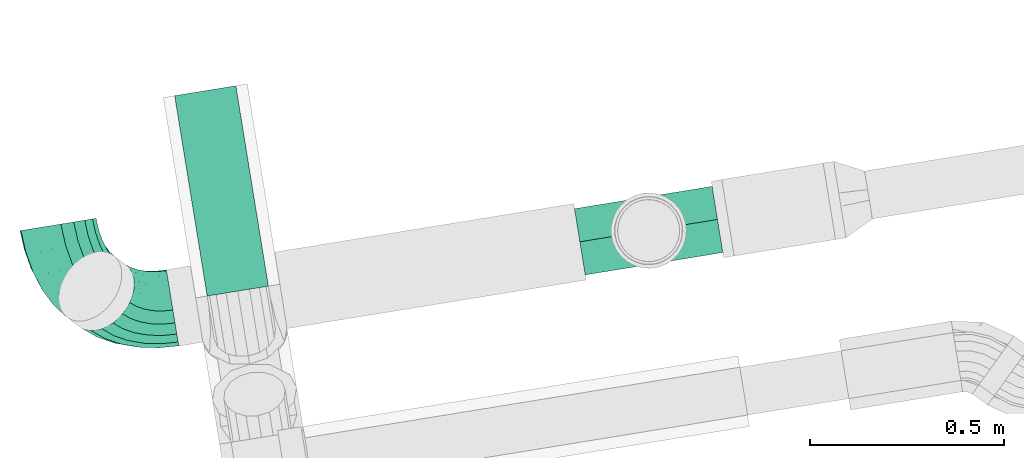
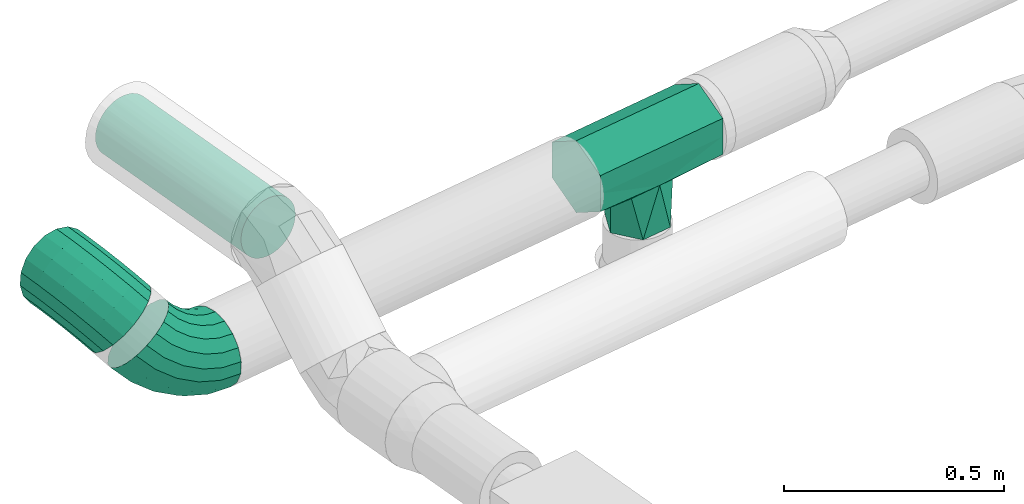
# One storey, part 36 of 39: 3 flow fittings, 1 flow segment.
"""IFC2X3 building model written with IfcOpenShell, lengths in millimetres."""

import ifcopenshell
import ifcopenshell.guid

model = None  # the IFC model being written
_history = None  # IfcOwnerHistory: only IFC2X3 demands one
_inside = {}  # id of a spatial element -> (the spatial element, [elements in it])
_under = {}  # id of a project, library or spatial element -> (it, [spatial elements below it])
_declared = {}  # id of a project -> (the project, [libraries it declares])
_typed = {}  # id of a type object -> (the type object, [elements of that type])
_made_of = {}  # id of a material, layer set ... -> (it, [elements and type objects made of it])


def new_model(schema):
    """Start an empty IFC model of exactly this schema.

    Asked for "IFC4X3", IfcOpenShell would pick the latest addendum, in which some entities
    have other attributes; the version numbers below select the first issue.
    IFC2X3 requires an IfcOwnerHistory on every rooted entity: one is made here for all.
    """
    global model, _history
    if schema == "IFC4X3":
        model = ifcopenshell.file(schema_version=(4, 3, 0, 0))
    else:
        model = ifcopenshell.file(schema=schema)
    _inside.clear()
    _under.clear()
    _declared.clear()
    _typed.clear()
    _made_of.clear()
    _history = None
    if model.schema == "IFC2X3":
        org = make("IfcOrganization", Name="unknown")
        user = make(
            "IfcPersonAndOrganization",
            ThePerson=make("IfcPerson", FamilyName="unknown"),
            TheOrganization=org,
        )
        app = make(
            "IfcApplication",
            ApplicationDeveloper=org,
            Version="unknown",
            ApplicationFullName="unknown",
            ApplicationIdentifier="unknown",
        )
        _history = make(
            "IfcOwnerHistory",
            OwningUser=user,
            OwningApplication=app,
            ChangeAction="ADDED",
            CreationDate=0,
        )
    return model


def make(cls, **values):
    """One entity of the class cls with the attributes given. An attribute that is None is left unset."""
    return model.create_entity(
        cls, **{name: value for name, value in values.items() if value is not None}
    )


def entity(cls, *values):
    """Any entity or typed value of the class cls, its attributes in the order of the schema. None: left unset."""
    e = model.create_entity(cls)
    for i, value in enumerate(values):
        if value is not None:
            e[i] = value
    return e


def rooted(cls, **values):
    """An entity with a GlobalId (a new one), such as an element, a storey or a relation."""
    return make(cls, GlobalId=ifcopenshell.guid.new(), OwnerHistory=_history, **values)


def si_unit(unit_type, name, prefix=None):
    """IfcSIUnit, for example si_unit("LENGTHUNIT", "METRE", prefix="MILLI")."""
    return make("IfcSIUnit", UnitType=unit_type, Prefix=prefix, Name=name)


def converted_unit(unit_type, name, factor, base, dimensions=None, offset=None):
    """IfcConversionBasedUnit, such as the inch: factor (a typed value) times the base unit."""
    return make(
        "IfcConversionBasedUnit"
        if offset is None
        else "IfcConversionBasedUnitWithOffset",
        ConversionOffset=offset,
        Dimensions=None
        if dimensions is None
        else entity("IfcDimensionalExponents", *dimensions),
        UnitType=unit_type,
        Name=name,
        ConversionFactor=make(
            "IfcMeasureWithUnit", ValueComponent=factor, UnitComponent=base
        ),
    )


def derived_unit(unit_type, elements):
    """IfcDerivedUnit: a product of units, each with its exponent."""
    return make(
        "IfcDerivedUnit",
        Elements=[
            make("IfcDerivedUnitElement", Unit=unit, Exponent=power)
            for unit, power in elements
        ],
        UnitType=unit_type,
    )


def assignment(units):
    """IfcUnitAssignment: the units of a project."""
    return None if units is None else make("IfcUnitAssignment", Units=units)


def point(xyz):
    """IfcCartesianPoint."""
    return None if xyz is None else make("IfcCartesianPoint", Coordinates=xyz)


def direction(xyz):
    """IfcDirection."""
    return None if xyz is None else make("IfcDirection", DirectionRatios=xyz)


def frame(location, z_axis=None, x_axis=None):
    """IfcAxis2Placement3D, a coordinate frame: its origin and axes. An axis left out is left unset."""
    return make(
        "IfcAxis2Placement3D",
        Location=point(location),
        Axis=direction(z_axis),
        RefDirection=direction(x_axis),
    )


def origin():
    """The frame at (0, 0, 0) with its axes left unset."""
    return frame((0.0, 0.0, 0.0))


def origin_with_axes():
    """The frame at (0, 0, 0) with the z axis (0, 0, 1) and the x axis (1, 0, 0) written out."""
    return frame((0.0, 0.0, 0.0), z_axis=(0.0, 0.0, 1.0), x_axis=(1.0, 0.0, 0.0))


def place(relative_to, where):
    """IfcLocalPlacement: puts the frame where relative to a parent placement (None: the world)."""
    return make(
        "IfcLocalPlacement", PlacementRelTo=relative_to, RelativePlacement=where
    )


def context(
    kind, dimensions, precision=None, world=None, true_north=None, identifier=None
):
    """IfcGeometricRepresentationContext, for example the 3D "Model" context."""
    return make(
        "IfcGeometricRepresentationContext",
        ContextIdentifier=identifier,
        ContextType=kind,
        CoordinateSpaceDimension=dimensions,
        Precision=precision,
        WorldCoordinateSystem=world,
        TrueNorth=true_north,
    )


def subcontext(parent, identifier, kind, view, scale=None):
    """IfcGeometricRepresentationSubContext, for example "Body" below "Model"."""
    return make(
        "IfcGeometricRepresentationSubContext",
        ContextIdentifier=identifier,
        ContextType=kind,
        ParentContext=parent,
        TargetScale=scale,
        TargetView=view,
    )


def project(units=None, contexts=None):
    """IfcProject with its units and contexts."""
    return rooted(
        "IfcProject",
        Name="project",
        RepresentationContexts=contexts,
        UnitsInContext=assignment(units),
    )


def spatial(cls, under=None, at=None, **own):
    """A site, building, storey or space (cls), placed at a placement, below another one or the project."""
    s = rooted(cls, ObjectPlacement=at, **own)
    if under is not None:
        _under.setdefault(under.id(), (under, []))[1].append(s)
    return s


def faces_of(points, faces, orient=None, outer=None):
    """IfcFace entities. A face is a list of loops; a loop is a list of indices into points, from 0.

    orient and outer hold one flag for each loop. By default every Orientation is true, the
    first loop of a face is its IfcFaceOuterBound and the others are IfcFaceBound.
    """
    made = []
    for i, loops in enumerate(faces):
        bounds = []
        for j, loop in enumerate(loops):
            is_outer = j == 0 if outer is None else outer[i][j]
            bounds.append(
                make(
                    "IfcFaceOuterBound" if is_outer else "IfcFaceBound",
                    Bound=make("IfcPolyLoop", Polygon=[points[k] for k in loop]),
                    Orientation=True if orient is None else orient[i][j],
                )
            )
        made.append(make("IfcFace", Bounds=bounds))
    return made


def faceted_brep(points, faces, orient=None, outer=None, voids=None):
    """IfcFacetedBrep: a solid bounded by flat faces; with voids (closed shells), ...WithVoids."""
    shared = [point(p) for p in points]
    hull = make("IfcClosedShell", CfsFaces=faces_of(shared, faces, orient, outer))
    if voids is None:
        return make("IfcFacetedBrep", Outer=hull)
    return make(
        "IfcFacetedBrepWithVoids",
        Outer=hull,
        Voids=[
            make(cls, CfsFaces=faces_of(shared, fs, o, b)) for cls, fs, o, b in voids
        ],
    )


def shape(context_of_items, identifier, shape_type, items):
    """IfcShapeRepresentation: the items that make up one representation, for example the "Body"."""
    return make(
        "IfcShapeRepresentation",
        ContextOfItems=context_of_items,
        RepresentationIdentifier=identifier,
        RepresentationType=shape_type,
        Items=items,
    )


def source(mapping_origin, context_of_items, identifier, shape_type, items):
    """IfcRepresentationMap: a shape defined once, which mapped items show again and again."""
    return make(
        "IfcRepresentationMap",
        MappingOrigin=mapping_origin,
        MappedRepresentation=shape(context_of_items, identifier, shape_type, items),
    )


def transform(
    local_origin,
    x_axis=None,
    y_axis=None,
    z_axis=None,
    scale=None,
    scale2=None,
    scale3=None,
    uniform=True,
):
    """IfcCartesianTransformationOperator3D, or its non-uniform kind. x_axis, y_axis, z_axis: its Axis1, 2, 3."""
    if uniform:
        return make(
            "IfcCartesianTransformationOperator3D",
            Axis1=direction(x_axis),
            Axis2=direction(y_axis),
            LocalOrigin=point(local_origin),
            Scale=scale,
            Axis3=direction(z_axis),
        )
    return make(
        "IfcCartesianTransformationOperator3DnonUniform",
        Axis1=direction(x_axis),
        Axis2=direction(y_axis),
        LocalOrigin=point(local_origin),
        Scale=scale,
        Axis3=direction(z_axis),
        Scale2=scale2,
        Scale3=scale3,
    )


def mapped(mapping_source, mapping_target):
    """IfcMappedItem: shows the shape of a source again, moved by a transform."""
    return make(
        "IfcMappedItem", MappingSource=mapping_source, MappingTarget=mapping_target
    )


def material(Name=None, Category=None):
    """IfcMaterial."""
    return make("IfcMaterial", Name=Name, Category=Category)


def made_of(thing, what):
    """Note that an element or type object is made of a material, layer set ...; save() writes the relation."""
    if what is not None:
        _made_of.setdefault(what.id(), (what, []))[1].append(thing)
    return thing


def type_object(cls, material=None, **own):
    """A type object (cls), such as IfcWallType, which elements share."""
    return made_of(rooted(cls, **own), material)


def element(
    cls,
    number,
    at=None,
    inside=None,
    cuts=None,
    type_object=None,
    material=None,
    context=None,
    identifier="Body",
    shape_type=None,
    held_by="IfcProductDefinitionShape",
    body=None,
    shapes=None,
    **own,
):
    """One element of the class cls, such as IfcWall. Its Tag is "e" and its number.

    at: its placement. inside: the storey or other place that contains it. cuts: it is an
    opening in that element (IfcRelVoidsElement). A single representation is given by context,
    identifier, shape_type and body (its items); several are given by shapes. held_by: the class
    of the entity that holds the representations. save() writes the other relations.
    """
    e = rooted(cls, Tag="e%d" % number, ObjectPlacement=at, **own)
    if body is not None:
        shapes = [shape(context, identifier, shape_type, body)]
    if shapes is not None:
        e.Representation = make(held_by, Representations=shapes)
    if inside is not None:
        _inside.setdefault(inside.id(), (inside, []))[1].append(e)
    if cuts is not None:
        rooted(
            "IfcRelVoidsElement", RelatingBuildingElement=cuts, RelatedOpeningElement=e
        )
    if type_object is not None:
        _typed.setdefault(type_object.id(), (type_object, []))[1].append(e)
    return made_of(e, material)


def aggregate(whole, parts):
    """IfcRelAggregates: a whole, such as a stair, and the parts it consists of."""
    return rooted("IfcRelAggregates", RelatingObject=whole, RelatedObjects=parts)


def save(model, path):
    """Write the relations noted so far, then the file.

    IfcRelAggregates (storeys below a building ...), IfcRelContainedInSpatialStructure (elements
    in a storey), IfcRelDefinesByType, IfcRelAssociatesMaterial and IfcRelDeclares: one each for
    every whole, place, type object, material and project.
    """
    for whole, parts in _under.values():
        aggregate(whole, parts)
    for where, things in _inside.values():
        rooted(
            "IfcRelContainedInSpatialStructure",
            RelatedElements=things,
            RelatingStructure=where,
        )
    for kind, things in _typed.values():
        rooted("IfcRelDefinesByType", RelatedObjects=things, RelatingType=kind)
    for what, things in _made_of.values():
        rooted("IfcRelAssociatesMaterial", RelatedObjects=things, RelatingMaterial=what)
    for by, libraries in _declared.values():
        rooted("IfcRelDeclares", RelatingContext=by, RelatedDefinitions=libraries)
    model.write(path)


model = new_model("IFC2X3")

# Units and contexts
model_context = context("Model", 3, precision=0.01, world=origin(), true_north=direction((6.12323399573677e-17, 1.0)))
plan_context = context("Plan", 3, precision=1e-05, world=origin_with_axes())
body_context = subcontext(model_context, "Body", "Model", "MODEL_VIEW")
ifc_project = project(units=[converted_unit("PLANEANGLEUNIT", "DEGREE", entity("IfcPositiveLengthMeasure", 0.0174532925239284), si_unit("PLANEANGLEUNIT", "RADIAN"), dimensions=[0, 0, 0, 0, 0, 0, 0]), si_unit("AREAUNIT", "SQUARE_METRE"), si_unit("LENGTHUNIT", "METRE", prefix="MILLI"), si_unit("MASSUNIT", "GRAM", prefix="KILO"), si_unit("POWERUNIT", "WATT"), si_unit("PRESSUREUNIT", "PASCAL", prefix="KILO"), si_unit("FORCEUNIT", "NEWTON", prefix="KILO"), si_unit("ELECTRICVOLTAGEUNIT", "VOLT"), si_unit("ELECTRICCURRENTUNIT", "AMPERE"), si_unit("THERMODYNAMICTEMPERATUREUNIT", "DEGREE_CELSIUS"), si_unit("TIMEUNIT", "SECOND"), si_unit("VOLUMEUNIT", "CUBIC_METRE"), derived_unit("LINEARVELOCITYUNIT", [(si_unit("LENGTHUNIT", "METRE"), 1), (si_unit("TIMEUNIT", "SECOND"), -1)]), derived_unit("VOLUMETRICFLOWRATEUNIT", [(si_unit("VOLUMEUNIT", "CUBIC_METRE"), 1), (si_unit("TIMEUNIT", "SECOND"), -1)]), derived_unit("THERMALTRANSMITTANCEUNIT", [(si_unit("POWERUNIT", "WATT"), 1), (si_unit("THERMODYNAMICTEMPERATUREUNIT", "KELVIN"), -1), (si_unit("AREAUNIT", "SQUARE_METRE"), -1)]), derived_unit("SOUNDPRESSUREUNIT", [(si_unit("PRESSUREUNIT", "PASCAL"), 1)])], contexts=[model_context, plan_context])

# Site, building, storey
site_placement = place(None, frame((-0.00071070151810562, 0.00438415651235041, 0.0), z_axis=(0.0, 0.0, 1.0), x_axis=(-0.160236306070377, 0.987078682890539, 0.0)))
site = spatial("IfcSite", under=ifc_project, at=site_placement, Name="Default", CompositionType="ELEMENT")
building_placement = place(site_placement, origin_with_axes())
building = spatial("IfcBuilding", under=site, at=building_placement, CompositionType="ELEMENT")
storey_placement = place(building_placement, frame((0.0, 0.0, 50999.9999999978), z_axis=(0.0, 0.0, 1.0), x_axis=(1.0, 0.0, 0.0)))
storey = spatial("IfcBuildingStorey", under=building, at=storey_placement, Name="Nivå D", CompositionType="ELEMENT", Elevation=50999.9999999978)

# Flow fittings
ifc_material = material(Name="<Unnamed>")
duct_fitting_type_1 = type_object("IfcDuctFittingType", Name="magicirc_tee_centric_90_1:magicirc_tee_centric_90_001", PredefinedType="NOTDEFINED", material=ifc_material)
shared_shape_1 = source(origin(), body_context, "Body", "Brep", [
    faceted_brep([(-180.0, -100.0, 0.0), (-180.0, -75.0, 43.3012701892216), (-180.0, -50.0, 86.6025403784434), (-180.0, 0.0, 86.6025403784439), (-180.0, 50.0, 86.6025403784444), (-180.0, 75.0, 43.3012701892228), (-180.0, 100.0, 0.0), (-180.0, 75.0, -43.3012701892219), (-180.0, 50.0, -86.6025403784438), (-180.0, 0.0, -86.6025403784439), (-180.0, -50.0, -86.602540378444), (-180.0, -75.0, -43.3012701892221), (180.0, -75.0, -43.3012701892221), (180.0, -50.0, -86.602540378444), (180.0, 0.0, -86.6025403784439), (180.0, 50.0, -86.6025403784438), (180.0, 75.0, -43.3012701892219), (180.0, 100.0, 0.0), (180.0, 76.8449156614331, 40.105782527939), (180.0, 50.0, 86.6025403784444), (180.0, 0.0, 86.6025403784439), (180.0, -50.0, 86.6025403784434), (180.0, -75.0, 43.3012701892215), (180.0, -100.0, 0.0), (80.0, -100.0, 0.0), (-80.0, -100.0, 0.0), (60.6439180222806, -85.3093476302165, 52.1758105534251), (-60.6402267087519, -85.3067236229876, 52.1801006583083), (-0.0143221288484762, -60.0000017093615, 79.9999987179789), (-0.0143221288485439, -60.0000017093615, -79.9999987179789), (60.6439180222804, -85.3093476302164, -52.1758105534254), (-60.6402267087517, -85.3067236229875, -52.1801006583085), (40.0, -200.0, -69.2820323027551), (60.0, -200.0, -34.6410161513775), (80.0, -200.0, 0.0), (60.0, -200.0, 34.641016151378), (40.0, -200.0, 69.2820323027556), (0.0, -200.0, 69.2820323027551), (-40.0, -200.0, 69.2820323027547), (-60.0, -200.0, 34.6410161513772), (-80.0, -200.0, 0.0), (-60.0, -200.0, -34.6410161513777), (-40.0, -200.0, -69.2820323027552), (0.0, -200.0, -69.2820323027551)], [[[0, 1, 2, 3, 4, 5, 6, 7, 8, 9, 10, 11]], [[12, 13, 14, 15, 16, 17, 18, 19, 20, 21, 22, 23]], [[23, 22, 24]], [[25, 1, 0]], [[26, 22, 21]], [[20, 19, 4, 3]], [[27, 1, 25]], [[24, 22, 26]], [[5, 4, 19, 18, 17, 6]], [[27, 2, 1]], [[2, 28, 3]], [[28, 2, 27]], [[21, 20, 28]], [[3, 28, 20]], [[21, 28, 26]], [[14, 29, 9]], [[9, 8, 15, 14]], [[6, 17, 16, 15, 8, 7]], [[13, 29, 14]], [[29, 10, 9]], [[12, 24, 30]], [[30, 29, 13]], [[31, 11, 10]], [[25, 11, 31]], [[0, 11, 25]], [[12, 23, 24]], [[30, 13, 12]], [[31, 10, 29]], [[32, 33, 34, 35, 36, 37, 38, 39, 40, 41, 42, 43]], [[25, 39, 27]], [[39, 38, 27]], [[26, 36, 35]], [[28, 27, 38]], [[24, 35, 34]], [[39, 25, 40]], [[28, 36, 26]], [[28, 38, 37, 36]], [[35, 24, 26]], [[24, 33, 30]], [[33, 32, 30]], [[31, 42, 41]], [[29, 30, 32]], [[25, 41, 40]], [[33, 24, 34]], [[29, 42, 31]], [[29, 32, 43, 42]], [[41, 25, 31]]]),
])
flow_fitting_1_placement = place(storey_placement, frame((779472.619644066, -591481.98173883, 2903.07848), z_axis=(-1.0, 0.0, 0.0), x_axis=(0.0, -1.0, 0.0)))
element("IfcFlowFitting", 1, at=flow_fitting_1_placement, inside=storey, type_object=duct_fitting_type_1, material=ifc_material, Name="magicirc_tee_centric_90_1:magicirc_tee_centric_90_001", ObjectType="magicirc_tee_centric_90_1:magicirc_tee_centric_90_001", context=body_context, shape_type="MappedRepresentation", body=[
    mapped(shared_shape_1, transform((0.0, 0.0, 0.0), scale=1.0)),
])
duct_fitting_type_2 = type_object("IfcDuctFittingType", Name="magicirc_elbow_full_radius_1:magicirc_elbow_full_radius_001", PredefinedType="NOTDEFINED", material=ifc_material)
shared_shape_2 = source(origin(), body_context, "Body", "Brep", [
    faceted_brep([(-51.4688686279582, -93.7166350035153, 0.0), (-52.696689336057, -87.8122081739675, 34.2020143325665), (-112.547001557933, -93.969262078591, 34.2020143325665), (-112.547001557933, -100.0, 0.0), (-56.2320581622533, -70.8110887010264, 64.2787609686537), (-112.547001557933, -76.604444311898, 64.2787609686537), (-61.6485574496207, -44.7638625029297, 86.6025403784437), (-112.547001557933, -50.0, 86.6025403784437), (-68.292877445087, -12.8122094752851, 98.4807753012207), (-112.547001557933, -17.3648177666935, 98.4807753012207), (-75.3636150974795, 21.1900294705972, 98.4807753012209), (-112.547001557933, 17.3648177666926, 98.4807753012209), (-82.0079350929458, 53.141682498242, 86.6025403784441), (-112.547001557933, 50.0, 86.6025403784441), (-87.4244343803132, 79.1889086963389, 64.2787609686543), (-112.547001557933, 76.6044443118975, 64.2787609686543), (-90.9598032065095, 96.1900281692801, 34.2020143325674), (-112.547001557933, 93.9692620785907, 34.2020143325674), (-92.1876239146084, 102.094454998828, 0.0), (-112.547001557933, 100.0, 0.0), (-90.9598032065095, 96.1900281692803, -34.2020143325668), (-112.547001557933, 93.9692620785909, -34.2020143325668), (-87.4244343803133, 79.1889086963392, -64.2787609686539), (-112.547001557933, 76.6044443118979, -64.2787609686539), (-82.0079350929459, 53.1416824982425, -86.6025403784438), (-112.547001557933, 50.0, -86.6025403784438), (-75.3636150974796, 21.1900294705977, -98.4807753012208), (-112.547001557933, 17.3648177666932, -98.4807753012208), (-68.2928774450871, -12.8122094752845, -98.4807753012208), (-112.547001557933, -17.3648177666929, -98.4807753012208), (-61.6485574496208, -44.7638625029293, -86.6025403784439), (-112.547001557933, -50.0, -86.6025403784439), (-56.2320581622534, -70.8110887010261, -64.2787609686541), (-112.547001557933, -76.6044443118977, -64.2787609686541), (-52.6966893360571, -87.8122081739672, -34.2020143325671), (-112.547001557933, -93.9692620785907, -34.2020143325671), (7.05075628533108, -75.1297445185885, 0.0), (4.64654717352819, -69.5989599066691, 34.2020143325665), (-2.27609706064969, -53.6737003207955, 64.2787609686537), (-12.8822033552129, -29.2747870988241, 86.6025403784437), (-25.892518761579, 0.654910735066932, 98.4807753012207), (-39.7378072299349, 32.5054299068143, 98.4807753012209), (-52.7481226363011, 62.4351277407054, 86.6025403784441), (-63.3542289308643, 86.834040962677, 64.2787609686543), (-70.2768731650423, 102.759300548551, 34.2020143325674), (-72.6810822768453, 108.290085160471, 0.0), (-70.2768731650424, 102.759300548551, -34.2020143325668), (-63.3542289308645, 86.8340409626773, -64.2787609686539), (-52.7481226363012, 62.4351277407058, -86.6025403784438), (-39.7378072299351, 32.5054299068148, -98.4807753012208), (-25.8925187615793, 0.654910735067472, -98.4807753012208), (-12.8822033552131, -29.2747870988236, -86.6025403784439), (-2.27609706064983, -53.6737003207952, -64.2787609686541), (4.64654717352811, -69.5989599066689, -34.2020143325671), (60.5605387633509, -45.0179166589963, 0.0), (57.0806514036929, -40.0924538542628, 34.2020143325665), (47.060715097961, -25.9101489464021, 64.2787609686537), (31.7092820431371, -4.1815972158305, 86.6025403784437), (12.8779616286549, 22.4724173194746, 98.4807753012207), (-7.16191098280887, 50.8370271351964, 98.4807753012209), (-25.993231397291, 77.4910416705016, 86.6025403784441), (-41.3446644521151, 99.2195934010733, 64.2787609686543), (-51.3646007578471, 113.401898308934, 34.2020143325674), (-54.8444881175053, 118.327361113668, 0.0), (-51.3646007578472, 113.401898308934, -34.2020143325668), (-41.3446644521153, 99.2195934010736, -64.2787609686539), (-25.9932313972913, 77.491041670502, -86.6025403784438), (-7.16191098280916, 50.8370271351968, -98.4807753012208), (12.8779616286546, 22.4724173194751, -98.4807753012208), (31.7092820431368, -4.18159721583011, -86.6025403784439), (47.0607150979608, -25.9101489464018, -64.2787609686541), (57.0806514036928, -40.0924538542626, -34.2020143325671), (106.819002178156, -4.64250879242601, 0.0), (102.409205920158, -0.528690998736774, 34.2020143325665), (89.711703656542, 11.3165752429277, 64.2787609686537), (70.2580015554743, 29.4645760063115, 86.6025403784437), (46.3945031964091, 51.7263945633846, 98.4807753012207), (20.9994986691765, 75.4169270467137, 98.4807753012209), (-2.8639996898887, 97.6787456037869, 86.6025403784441), (-22.3177017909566, 115.826746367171, 64.2787609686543), (-35.0152040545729, 127.672012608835, 34.2020143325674), (-39.4250003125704, 131.785830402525, 0.0), (-35.0152040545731, 127.672012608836, -34.2020143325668), (-22.3177017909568, 115.826746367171, -64.2787609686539), (-2.86399968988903, 97.6787456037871, -86.6025403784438), (20.9994986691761, 75.416927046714, -98.4807753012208), (46.3945031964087, 51.726394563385, -98.4807753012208), (70.2580015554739, 29.4645760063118, -86.6025403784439), (89.7117036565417, 11.3165752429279, -64.2787609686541), (102.409205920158, -0.528690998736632, -34.2020143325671), (143.888421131, 44.305189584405, 0.0), (138.733438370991, 47.4350382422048, 34.2020143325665), (123.890257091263, 56.4470782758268, 64.2787609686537), (101.149184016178, 70.2543246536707, 86.6025403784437), (73.2531281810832, 87.1914196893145, 98.4807753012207), (43.5667656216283, 105.215499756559, 98.4807753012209), (15.6707097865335, 122.152594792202, 86.6025403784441), (-7.07036328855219, 135.959841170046, 64.2787609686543), (-21.9135445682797, 144.971881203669, 34.2020143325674), (-27.068527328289, 148.101729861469, 0.0), (-21.9135445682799, 144.971881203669, -34.2020143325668), (-7.07036328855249, 135.959841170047, -64.2787609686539), (15.6707097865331, 122.152594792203, -86.6025403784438), (43.5667656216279, 105.215499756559, -98.4807753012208), (73.2531281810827, 87.1914196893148, -98.4807753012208), (101.149184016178, 70.254324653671, -86.6025403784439), (123.890257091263, 56.447078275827, -64.2787609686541), (138.733438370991, 47.4350382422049, -34.2020143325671)], [[[0, 1, 2, 3]], [[1, 4, 5, 2]], [[4, 6, 7, 5]], [[6, 8, 9, 7]], [[8, 10, 11, 9]], [[10, 12, 13, 11]], [[12, 14, 15, 13]], [[14, 16, 17, 15]], [[16, 18, 19, 17]], [[18, 20, 21, 19]], [[20, 22, 23, 21]], [[22, 24, 25, 23]], [[24, 26, 27, 25]], [[26, 28, 29, 27]], [[28, 30, 31, 29]], [[30, 32, 33, 31]], [[32, 34, 35, 33]], [[34, 0, 3, 35]], [[36, 37, 1, 0]], [[37, 38, 4, 1]], [[38, 39, 6, 4]], [[39, 40, 8, 6]], [[40, 41, 10, 8]], [[41, 42, 12, 10]], [[42, 43, 14, 12]], [[43, 44, 16, 14]], [[44, 45, 18, 16]], [[45, 46, 20, 18]], [[46, 47, 22, 20]], [[47, 48, 24, 22]], [[48, 49, 26, 24]], [[49, 50, 28, 26]], [[50, 51, 30, 28]], [[51, 52, 32, 30]], [[52, 53, 34, 32]], [[53, 36, 0, 34]], [[54, 55, 37, 36]], [[55, 56, 38, 37]], [[56, 57, 39, 38]], [[57, 58, 40, 39]], [[58, 59, 41, 40]], [[59, 60, 42, 41]], [[60, 61, 43, 42]], [[61, 62, 44, 43]], [[62, 63, 45, 44]], [[63, 64, 46, 45]], [[64, 65, 47, 46]], [[65, 66, 48, 47]], [[66, 67, 49, 48]], [[67, 68, 50, 49]], [[68, 69, 51, 50]], [[69, 70, 52, 51]], [[70, 71, 53, 52]], [[71, 54, 36, 53]], [[72, 73, 55, 54]], [[73, 74, 56, 55]], [[74, 75, 57, 56]], [[75, 76, 58, 57]], [[76, 77, 59, 58]], [[77, 78, 60, 59]], [[78, 79, 61, 60]], [[79, 80, 62, 61]], [[80, 81, 63, 62]], [[81, 82, 64, 63]], [[82, 83, 65, 64]], [[83, 84, 66, 65]], [[84, 85, 67, 66]], [[85, 86, 68, 67]], [[86, 87, 69, 68]], [[87, 88, 70, 69]], [[88, 89, 71, 70]], [[89, 72, 54, 71]], [[90, 91, 73, 72]], [[91, 92, 74, 73]], [[92, 93, 75, 74]], [[93, 94, 76, 75]], [[94, 95, 77, 76]], [[95, 96, 78, 77]], [[96, 97, 79, 78]], [[97, 98, 80, 79]], [[98, 99, 81, 80]], [[99, 100, 82, 81]], [[100, 101, 83, 82]], [[101, 102, 84, 83]], [[102, 103, 85, 84]], [[103, 104, 86, 85]], [[104, 105, 87, 86]], [[105, 106, 88, 87]], [[106, 107, 89, 88]], [[107, 90, 72, 89]], [[3, 2, 5, 7, 9, 11, 13, 15, 17, 19, 21, 23, 25, 27, 29, 31, 33, 35]], [[107, 106, 105, 104, 103, 102, 101, 100, 99, 98, 97, 96, 95, 94, 93, 92, 91, 90]]]),
])
flow_fitting_2_placement = place(storey_placement, frame((779620.014054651, -589979.48173883, 3100.0), z_axis=(-2.22044604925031e-16, 0.811084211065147, -0.584929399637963), x_axis=(0.518982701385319, 0.49998872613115, 0.693302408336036)))
element("IfcFlowFitting", 2, at=flow_fitting_2_placement, inside=storey, type_object=duct_fitting_type_2, material=ifc_material, Name="magicirc_elbow_full_radius_1:magicirc_elbow_full_radius_001", ObjectType="magicirc_elbow_full_radius_1:magicirc_elbow_full_radius_001", context=body_context, shape_type="MappedRepresentation", body=[
    mapped(shared_shape_2, transform((0.0, 0.0, 0.0), scale=1.0)),
])
duct_fitting_type_3 = type_object("IfcDuctFittingType", Name="magicirc_elbow_full_radius_1:magicirc_elbow_full_radius_001", PredefinedType="NOTDEFINED", material=ifc_material)
shared_shape_3 = source(origin(), body_context, "Body", "Brep", [
    faceted_brep([(-53.0965465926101, -93.4442802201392, 0.0), (-54.3504075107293, -87.5453283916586, 34.2020143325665), (-115.470053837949, -93.969262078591, 34.2020143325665), (-115.470053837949, -100.0, 0.0), (-57.9607561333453, -70.5599735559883, 64.2787609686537), (-115.470053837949, -76.604444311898, 64.2787609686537), (-63.4921311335, -44.5369001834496, 86.6025403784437), (-115.470053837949, -50.0, 86.6025403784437), (-70.2773670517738, -12.6148749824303, 98.4807753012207), (-115.470053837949, -17.3648177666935, 98.4807753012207), (-77.498064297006, 21.3558346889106, 98.4807753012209), (-115.470053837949, 17.3648177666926, 98.4807753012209), (-84.2833002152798, 53.2778598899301, 86.6025403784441), (-115.470053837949, 50.0, 86.6025403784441), (-89.8146752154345, 79.3009332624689, 64.2787609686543), (-115.470053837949, 76.6044443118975, 64.2787609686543), (-93.4250238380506, 96.2862880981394, 34.2020143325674), (-115.470053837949, 93.9692620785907, 34.2020143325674), (-94.6788847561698, 102.18523992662, 0.0), (-115.470053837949, 100.0, 0.0), (-93.4250238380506, 96.2862880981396, -34.2020143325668), (-115.470053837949, 93.9692620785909, -34.2020143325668), (-89.8146752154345, 79.3009332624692, -64.2787609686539), (-115.470053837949, 76.6044443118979, -64.2787609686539), (-84.2833002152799, 53.2778598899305, -86.6025403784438), (-115.470053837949, 50.0, -86.6025403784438), (-77.4980642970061, 21.3558346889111, -98.4807753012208), (-115.470053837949, 17.3648177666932, -98.4807753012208), (-70.2773670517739, -12.6148749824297, -98.4807753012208), (-115.470053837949, -17.3648177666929, -98.4807753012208), (-63.4921311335, -44.5369001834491, -86.6025403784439), (-115.470053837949, -50.0, -86.6025403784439), (-57.9607561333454, -70.559973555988, -64.2787609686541), (-115.470053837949, -76.6044443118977, -64.2787609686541), (-54.3504075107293, -87.5453283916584, -34.2020143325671), (-115.470053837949, -93.9692620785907, -34.2020143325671), (6.55093908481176, -74.0636372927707, 0.0), (4.09801698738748, -68.5542840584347, 34.2020143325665), (-2.96489069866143, -52.6907336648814, 64.2787609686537), (-13.7858930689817, -28.3863644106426, 86.6025403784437), (-27.0598175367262, 1.42735807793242, 98.4807753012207), (-41.1856329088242, 33.1544588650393, 98.4807753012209), (-54.4595573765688, 62.9681813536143, 86.6025403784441), (-65.2805597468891, 87.2725506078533, 64.2787609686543), (-72.3434674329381, 103.136101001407, 34.2020143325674), (-74.7963895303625, 108.645454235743, 0.0), (-72.3434674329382, 103.136101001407, -34.2020143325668), (-65.2805597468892, 87.2725506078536, -64.2787609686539), (-54.459557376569, 62.9681813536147, -86.6025403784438), (-41.1856329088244, 33.1544588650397, -98.4807753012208), (-27.0598175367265, 1.42735807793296, -98.4807753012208), (-13.7858930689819, -28.3863644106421, -86.6025403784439), (-2.96489069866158, -52.6907336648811, -64.2787609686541), (4.09801698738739, -68.5542840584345, -34.2020143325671), (60.8655218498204, -42.7050983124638, 0.0), (57.3207430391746, -37.8261288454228, 34.2020143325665), (47.1139592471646, -23.7776961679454, 64.2787609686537), (31.4762592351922, -2.25424859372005, 86.6025403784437), (12.2937804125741, 24.1481684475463, 98.4807753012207), (-8.11978717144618, 52.2450338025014, 98.4807753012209), (-27.3022659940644, 78.6474508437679, 86.6025403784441), (-42.9399660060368, 100.170898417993, 64.2787609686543), (-53.146749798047, 114.219331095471, 34.2020143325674), (-56.6915286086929, 119.098300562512, 0.0), (-53.1467497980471, 114.219331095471, -34.2020143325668), (-42.939966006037, 100.170898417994, -64.2787609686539), (-27.3022659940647, 78.6474508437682, -86.6025403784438), (-8.11978717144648, 52.2450338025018, -98.4807753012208), (12.2937804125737, 24.1481684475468, -98.4807753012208), (31.476259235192, -2.25424859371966, -86.6025403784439), (47.1139592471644, -23.7776961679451, -64.2787609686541), (57.3207430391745, -37.8261288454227, -34.2020143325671), (107.473393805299, -0.739181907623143, 0.0), (102.991682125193, 3.29616941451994, 34.2020143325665), (90.0871076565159, 14.9155004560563, 64.2787609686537), (70.3161525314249, 32.7173484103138, 86.6025403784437), (46.0634857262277, 54.5545476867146, 98.4807753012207), (20.2543367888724, 77.7932097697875, 98.4807753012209), (-3.99833001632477, 99.6304090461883, 86.6025403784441), (-23.7692851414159, 117.432257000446, 64.2787609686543), (-36.6738596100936, 129.051588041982, 34.2020143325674), (-41.1555712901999, 133.086939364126, 0.0), (-36.6738596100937, 129.051588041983, -34.2020143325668), (-23.7692851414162, 117.432257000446, -64.2787609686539), (-3.9983300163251, 99.6304090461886, -86.6025403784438), (20.2543367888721, 77.7932097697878, -98.4807753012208), (46.0634857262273, 54.554547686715, -98.4807753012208), (70.3161525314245, 32.7173484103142, -86.6025403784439), (90.0871076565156, 14.9155004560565, -64.2787609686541), (102.991682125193, 3.29616941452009, -34.2020143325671), (144.337567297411, 50.0, 0.0), (139.114795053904, 53.0153689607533, 34.2020143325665), (124.076421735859, 61.6977778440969, 64.2787609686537), (101.036297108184, 75.0, 86.6025403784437), (72.7734002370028, 91.3175911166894, 98.4807753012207), (42.6966536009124, 108.682408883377, 98.4807753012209), (14.4337567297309, 125.0, 86.6025403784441), (-8.60636789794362, 138.302222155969, 64.2787609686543), (-23.6447412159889, 146.984631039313, 34.2020143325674), (-28.8675134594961, 150.0, 0.0), (-23.6447412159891, 146.984631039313, -34.2020143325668), (-8.60636789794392, 138.30222215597, -64.2787609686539), (14.4337567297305, 125.0, -86.6025403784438), (42.696653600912, 108.682408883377, -98.4807753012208), (72.7734002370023, 91.3175911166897, -98.4807753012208), (101.036297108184, 75.0, -86.6025403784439), (124.076421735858, 61.6977778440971, -64.2787609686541), (139.114795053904, 53.0153689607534, -34.2020143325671)], [[[0, 1, 2, 3]], [[1, 4, 5, 2]], [[4, 6, 7, 5]], [[6, 8, 9, 7]], [[8, 10, 11, 9]], [[10, 12, 13, 11]], [[12, 14, 15, 13]], [[14, 16, 17, 15]], [[16, 18, 19, 17]], [[18, 20, 21, 19]], [[20, 22, 23, 21]], [[22, 24, 25, 23]], [[24, 26, 27, 25]], [[26, 28, 29, 27]], [[28, 30, 31, 29]], [[30, 32, 33, 31]], [[32, 34, 35, 33]], [[34, 0, 3, 35]], [[36, 37, 1, 0]], [[37, 38, 4, 1]], [[38, 39, 6, 4]], [[39, 40, 8, 6]], [[40, 41, 10, 8]], [[41, 42, 12, 10]], [[42, 43, 14, 12]], [[43, 44, 16, 14]], [[44, 45, 18, 16]], [[45, 46, 20, 18]], [[46, 47, 22, 20]], [[47, 48, 24, 22]], [[48, 49, 26, 24]], [[49, 50, 28, 26]], [[50, 51, 30, 28]], [[51, 52, 32, 30]], [[52, 53, 34, 32]], [[53, 36, 0, 34]], [[54, 55, 37, 36]], [[55, 56, 38, 37]], [[56, 57, 39, 38]], [[57, 58, 40, 39]], [[58, 59, 41, 40]], [[59, 60, 42, 41]], [[60, 61, 43, 42]], [[61, 62, 44, 43]], [[62, 63, 45, 44]], [[63, 64, 46, 45]], [[64, 65, 47, 46]], [[65, 66, 48, 47]], [[66, 67, 49, 48]], [[67, 68, 50, 49]], [[68, 69, 51, 50]], [[69, 70, 52, 51]], [[70, 71, 53, 52]], [[71, 54, 36, 53]], [[72, 73, 55, 54]], [[73, 74, 56, 55]], [[74, 75, 57, 56]], [[75, 76, 58, 57]], [[76, 77, 59, 58]], [[77, 78, 60, 59]], [[78, 79, 61, 60]], [[79, 80, 62, 61]], [[80, 81, 63, 62]], [[81, 82, 64, 63]], [[82, 83, 65, 64]], [[83, 84, 66, 65]], [[84, 85, 67, 66]], [[85, 86, 68, 67]], [[86, 87, 69, 68]], [[87, 88, 70, 69]], [[88, 89, 71, 70]], [[89, 72, 54, 71]], [[90, 91, 73, 72]], [[91, 92, 74, 73]], [[92, 93, 75, 74]], [[93, 94, 76, 75]], [[94, 95, 77, 76]], [[95, 96, 78, 77]], [[96, 97, 79, 78]], [[97, 98, 80, 79]], [[98, 99, 81, 80]], [[99, 100, 82, 81]], [[100, 101, 83, 82]], [[101, 102, 84, 83]], [[102, 103, 85, 84]], [[103, 104, 86, 85]], [[104, 105, 87, 86]], [[105, 106, 88, 87]], [[106, 107, 89, 88]], [[107, 90, 72, 89]], [[3, 2, 5, 7, 9, 11, 13, 15, 17, 19, 21, 23, 25, 27, 29, 31, 33, 35]], [[107, 106, 105, 104, 103, 102, 101, 100, 99, 98, 97, 96, 95, 94, 93, 92, 91, 90]]]),
])
flow_fitting_3_placement = place(storey_placement, frame((779472.619644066, -590121.481738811, 2903.09767635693), z_axis=(0.800547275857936, 9.74484814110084e-06, -0.599269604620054), x_axis=(2.77555756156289e-17, 0.999999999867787, 1.62612087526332e-05)))
element("IfcFlowFitting", 3, at=flow_fitting_3_placement, inside=storey, type_object=duct_fitting_type_3, material=ifc_material, Name="magicirc_elbow_full_radius_1:magicirc_elbow_full_radius_001", ObjectType="magicirc_elbow_full_radius_1:magicirc_elbow_full_radius_001", context=body_context, shape_type="MappedRepresentation", body=[
    mapped(shared_shape_3, transform((0.0, 0.0, 0.0), scale=1.0)),
])

# Flow segment
duct_segment_type = type_object("IfcDuctSegmentType", Name="Round Duct:KK001T - Spiro kanaler, Forsinket stål", PredefinedType="NOTDEFINED")
flow_segment_placement = place(storey_placement, origin_with_axes())
element("IfcFlowSegment", 4, at=flow_segment_placement, inside=storey, type_object=duct_segment_type, Name="Round Duct:KK001T - Spiro kanaler, Forsinket stål", ObjectType="Round Duct:KK001T - Spiro kanaler, Forsinket stål", context=body_context, shape_type="Brep", body=[
    faceted_brep([(780012.619644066, -590488.766359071, 3163.89185421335), (780012.619644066, -590489.98173883, 3150.0), (779488.512185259, -590489.98173883, 3150.0), (779488.512185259, -590488.766359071, 3163.89185421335), (780012.619644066, -590488.766359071, 3136.10814578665), (779488.512185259, -590488.766359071, 3136.10814578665), (780012.619644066, -590485.157148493, 3122.63838853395), (779488.512185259, -590485.157148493, 3122.63838853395), (780012.619644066, -590479.263771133, 3110.0), (779488.512185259, -590479.263771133, 3110.0), (780012.619644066, -590471.26529428, 3098.57699122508), (779488.512185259, -590471.26529428, 3098.57699122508), (780012.619644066, -590461.404747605, 3088.71644455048), (779488.512185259, -590461.404747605, 3088.71644455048), (780012.619644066, -590449.98173883, 3080.71796769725), (779488.512185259, -590449.98173883, 3080.71796769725), (780012.619644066, -590437.343350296, 3074.82459033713), (779488.512185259, -590437.343350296, 3074.82459033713), (780012.619644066, -590423.873593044, 3071.21537975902), (779488.512185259, -590423.873593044, 3071.21537975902), (780012.619644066, -590409.98173883, 3070.0), (779488.512185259, -590409.98173883, 3070.0), (780012.619644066, -590396.089884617, 3071.21537975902), (779488.512185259, -590396.089884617, 3071.21537975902), (780012.619644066, -590382.620127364, 3074.82459033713), (779488.512185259, -590382.620127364, 3074.82459033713), (780012.619644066, -590369.98173883, 3080.71796769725), (779488.512185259, -590369.98173883, 3080.71796769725), (780012.619644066, -590358.558730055, 3088.71644455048), (779488.512185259, -590358.558730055, 3088.71644455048), (780012.619644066, -590348.698183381, 3098.57699122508), (779488.512185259, -590348.698183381, 3098.57699122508), (780012.619644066, -590340.699706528, 3110.0), (779488.512185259, -590340.699706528, 3110.0), (780012.619644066, -590334.806329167, 3122.63838853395), (779488.512185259, -590334.806329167, 3122.63838853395), (780012.619644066, -590331.197118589, 3136.10814578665), (779488.512185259, -590331.197118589, 3136.10814578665), (780012.619644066, -590329.98173883, 3150.0), (779488.512185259, -590329.98173883, 3150.0), (780012.619644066, -590331.197118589, 3163.89185421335), (779488.512185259, -590331.197118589, 3163.89185421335), (780012.619644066, -590334.806329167, 3177.36161146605), (779488.512185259, -590334.806329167, 3177.36161146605), (780012.619644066, -590340.699706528, 3190.0), (779488.512185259, -590340.699706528, 3190.0), (780012.619644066, -590348.698183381, 3201.42300877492), (779488.512185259, -590348.698183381, 3201.42300877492), (780012.619644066, -590358.558730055, 3211.28355544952), (779488.512185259, -590358.558730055, 3211.28355544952), (780012.619644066, -590369.98173883, 3219.28203230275), (779488.512185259, -590369.98173883, 3219.28203230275), (780012.619644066, -590382.620127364, 3225.17540966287), (779488.512185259, -590382.620127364, 3225.17540966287), (780012.619644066, -590396.089884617, 3228.78462024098), (779488.512185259, -590396.089884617, 3228.78462024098), (780012.619644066, -590409.98173883, 3230.0), (779488.512185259, -590409.98173883, 3230.0), (780012.619644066, -590423.873593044, 3228.78462024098), (779488.512185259, -590423.873593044, 3228.78462024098), (780012.619644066, -590437.343350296, 3225.17540966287), (779488.512185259, -590437.343350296, 3225.17540966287), (780012.619644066, -590449.98173883, 3219.28203230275), (779488.512185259, -590449.98173883, 3219.28203230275), (780012.619644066, -590461.404747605, 3211.28355544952), (779488.512185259, -590461.404747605, 3211.28355544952), (780012.619644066, -590471.26529428, 3201.42300877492), (779488.512185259, -590471.26529428, 3201.42300877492), (780012.619644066, -590479.263771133, 3190.0), (779488.512185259, -590479.263771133, 3190.0), (780012.619644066, -590485.157148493, 3177.36161146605), (779488.512185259, -590485.157148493, 3177.36161146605)], [[[0, 1, 2, 3]], [[1, 4, 5, 2]], [[4, 6, 7, 5]], [[6, 8, 9, 7]], [[8, 10, 11, 9]], [[10, 12, 13, 11]], [[12, 14, 15, 13]], [[14, 16, 17, 15]], [[16, 18, 19, 17]], [[18, 20, 21, 19]], [[20, 22, 23, 21]], [[22, 24, 25, 23]], [[24, 26, 27, 25]], [[26, 28, 29, 27]], [[28, 30, 31, 29]], [[30, 32, 33, 31]], [[32, 34, 35, 33]], [[34, 36, 37, 35]], [[36, 38, 39, 37]], [[38, 40, 41, 39]], [[40, 42, 43, 41]], [[42, 44, 45, 43]], [[44, 46, 47, 45]], [[46, 48, 49, 47]], [[48, 50, 51, 49]], [[50, 52, 53, 51]], [[52, 54, 55, 53]], [[54, 56, 57, 55]], [[56, 58, 59, 57]], [[58, 60, 61, 59]], [[60, 62, 63, 61]], [[62, 64, 65, 63]], [[64, 66, 67, 65]], [[66, 68, 69, 67]], [[68, 70, 71, 69]], [[70, 0, 3, 71]], [[3, 2, 5, 7, 9, 11, 13, 15, 17, 19, 21, 23, 25, 27, 29, 31, 33, 35, 37, 39, 41, 43, 45, 47, 49, 51, 53, 55, 57, 59, 61, 63, 65, 67, 69, 71]], [[70, 68, 66, 64, 62, 60, 58, 56, 54, 52, 50, 48, 46, 44, 42, 40, 38, 36, 34, 32, 30, 28, 26, 24, 22, 20, 18, 16, 14, 12, 10, 8, 6, 4, 1, 0]]], orient=[[False], [False], [False], [False], [False], [False], [False], [False], [False], [False], [False], [False], [False], [False], [False], [False], [False], [False], [False], [False], [False], [False], [False], [False], [False], [False], [False], [False], [False], [False], [False], [False], [False], [False], [False], [False], [False], [False]]),
])

save(model, "model.ifc")
